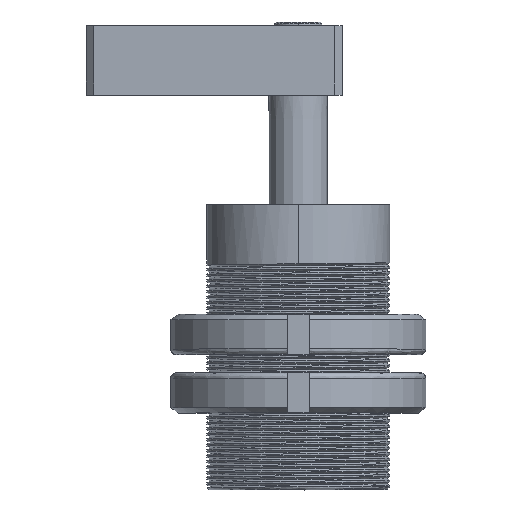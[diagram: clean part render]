
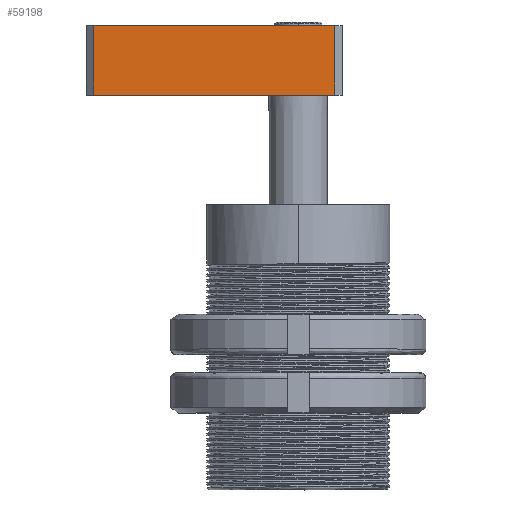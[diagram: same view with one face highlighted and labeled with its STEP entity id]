
A CAD part, top view. The second image highlights one B-rep face of the part: STEP entity #59198.
In plain terms, the highlighted planar face has unit normal (0, 0, 1).
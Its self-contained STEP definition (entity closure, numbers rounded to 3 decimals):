
#1742 = CARTESIAN_POINT ( 'NONE',  ( 34., 0., 9.5 ) ) ;
#1758 = CARTESIAN_POINT ( 'NONE',  ( -32., 19., 9.5 ) ) ;
#1765 = CARTESIAN_POINT ( 'NONE',  ( 34., 19., 9.5 ) ) ;
#1770 = CARTESIAN_POINT ( 'NONE',  ( -32., 0., 9.5 ) ) ;
#7464 = EDGE_LOOP ( 'NONE', ( #15395, #15392, #15393, #15391 ) ) ;
#7648 = VERTEX_POINT ( 'NONE', #1770 ) ;
#7653 = VERTEX_POINT ( 'NONE', #1765 ) ;
#7660 = VERTEX_POINT ( 'NONE', #1758 ) ;
#7676 = VERTEX_POINT ( 'NONE', #1742 ) ;
#15391 = ORIENTED_EDGE ( 'NONE', *, *, #57937, .T. ) ;
#15392 = ORIENTED_EDGE ( 'NONE', *, *, #57936, .T. ) ;
#15393 = ORIENTED_EDGE ( 'NONE', *, *, #57918, .T. ) ;
#15395 = ORIENTED_EDGE ( 'NONE', *, *, #57932, .T. ) ;
#18125 = LINE ( 'NONE', #18126, #59463 ) ;
#18126 = CARTESIAN_POINT ( 'NONE',  ( -35., 19., 9.5 ) ) ;
#18127 = DIRECTION ( 'NONE',  ( -1., 0., 0. ) ) ;
#18197 = LINE ( 'NONE', #18198, #59473 ) ;
#18198 = CARTESIAN_POINT ( 'NONE',  ( -35., 0., 9.5 ) ) ;
#18199 = DIRECTION ( 'NONE',  ( 1., 0., 0. ) ) ;
#18209 = LINE ( 'NONE', #18210, #59477 ) ;
#18210 = CARTESIAN_POINT ( 'NONE',  ( 34., -19.235, 9.5 ) ) ;
#18211 = DIRECTION ( 'NONE',  ( 0., 1., 0. ) ) ;
#18212 = LINE ( 'NONE', #18213, #59478 ) ;
#18213 = CARTESIAN_POINT ( 'NONE',  ( -32., 0., 9.5 ) ) ;
#18214 = DIRECTION ( 'NONE',  ( 0., -1., 0. ) ) ;
#43557 = AXIS2_PLACEMENT_3D ( 'NONE', #52537, #52538, #52539 ) ;
#52536 = PLANE ( 'NONE',  #43557 ) ;
#52537 = CARTESIAN_POINT ( 'NONE',  ( -35., 0., 9.5 ) ) ;
#52538 = DIRECTION ( 'NONE',  ( 0., 0., 1. ) ) ;
#52539 = DIRECTION ( 'NONE',  ( 1., 0., 0. ) ) ;
#53701 = FACE_OUTER_BOUND ( 'NONE', #7464, .T. ) ;
#57918 = EDGE_CURVE ( 'NONE', #7653, #7660, #18125, .T. ) ;
#57932 = EDGE_CURVE ( 'NONE', #7648, #7676, #18197, .T. ) ;
#57936 = EDGE_CURVE ( 'NONE', #7676, #7653, #18209, .T. ) ;
#57937 = EDGE_CURVE ( 'NONE', #7660, #7648, #18212, .T. ) ;
#59198 = ADVANCED_FACE ( 'NONE', ( #53701 ), #52536, .T. ) ;
#59463 = VECTOR ( 'NONE', #18127, 1000. ) ;
#59473 = VECTOR ( 'NONE', #18199, 1000. ) ;
#59477 = VECTOR ( 'NONE', #18211, 1000. ) ;
#59478 = VECTOR ( 'NONE', #18214, 1000. ) ;
